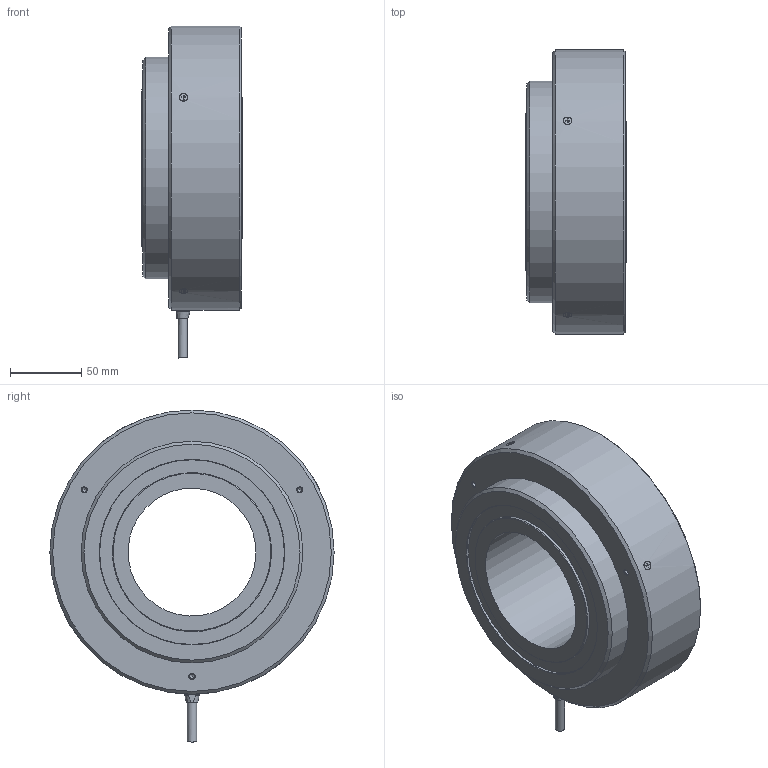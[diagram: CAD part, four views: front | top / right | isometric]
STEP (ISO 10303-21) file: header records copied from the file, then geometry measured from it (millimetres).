
FILE_DESCRIPTION(('STEP AP242'),'1');
FILE_NAME('L08D01 MEH-180P.stp','2025-08-19T07:36:18',(' '),(' '),'Spatial InterOp 3D',' ',' ');
FILE_SCHEMA(('AP242_MANAGED_MODEL_BASED_3D_ENGINEERING_MIM_LF {1 0 10303 442 1 1 4}'));
Length unit declared in the file: millimetre
Products named in the file (1): L08D01 MEH-180P
Bounding box: 71 x 200 x 233.6 mm (x, y, z)
Volume: 1501149 mm3; surface area: 116190.6 mm2
Topology: 1 solids, 8 shells, 156 faces, 378 edges, 247 vertices
Faces by surface type: plane 80, cylinder 46, cone 27, torus 2, bspline 1
Full cylindrical faces by diameter (mm): 2.5 x4, 3.3 x6, 6 x4, 6.5 x1, 90 x1, 100 x1, 112 x1, 125 x1, 130 x1, 156 x1, 200 x1
Entity records: 6408 total; most frequent: CARTESIAN_POINT 1764, DIRECTION 676, ORIENTED_EDGE 594, EDGE_CURVE 297, AXIS2_PLACEMENT_3D 257, EDGE_LOOP 226, VERTEX_POINT 223, FACE_OUTER_BOUND 180
